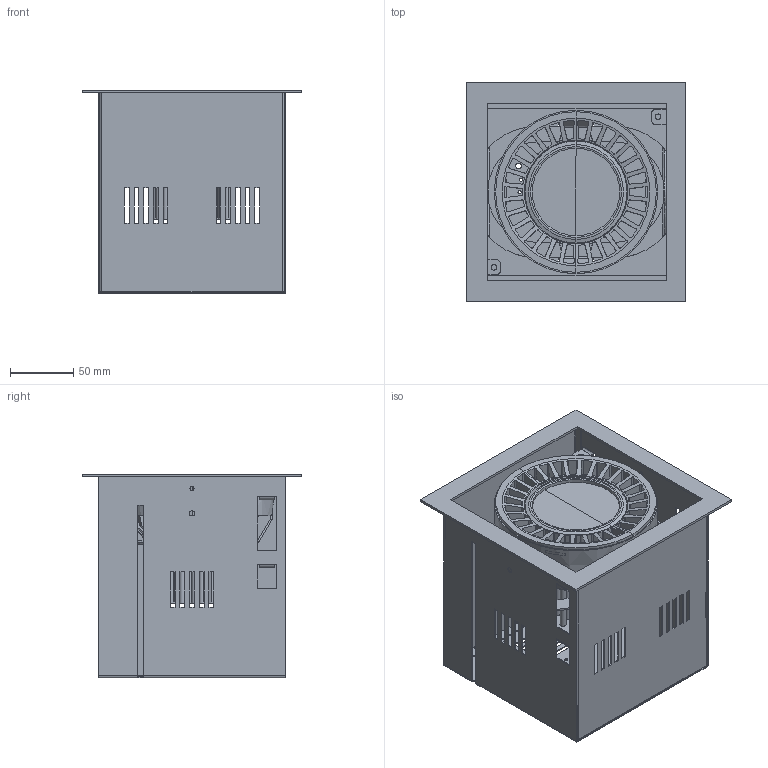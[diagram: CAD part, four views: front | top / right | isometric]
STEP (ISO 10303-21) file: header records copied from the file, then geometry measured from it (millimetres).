
FILE_DESCRIPTION(/* description */ (''),/* implementation_level */ '2;1');
FILE_NAME(/* name */ 'C:\Users\FrancoSartori\Documents\FARO\01_En Proceso\000_PRO\00_1 COLIN\03_Publicación\034008502.stp',/* time_stamp */ '2021-08-20T08:12:31+02:00',/* author */ ('FrancoSartori'),/* organization */ (''),/* preprocessor_version */ 'ST-DEVELOPER v18.1',/* originating_system */ 'AutoCAD Mechanical',/* authorisation */ '');
FILE_SCHEMA (('AUTOMOTIVE_DESIGN { 1 0 10303 214 3 1 1 }'));
Length unit declared in the file: millimetre
Products named in the file (2): Product; COLIN-1_ - Lamp-458691-View 1
Assembly tree (1 placements, depth 2):
  Product
    COLIN-1_ - Lamp-458691-View 1
Bounding box: 173 x 173 x 160.75 mm (x, y, z)
Volume: 433978.7 mm3; surface area: 463085 mm2
Topology: 21 solids, 21 shells, 1197 faces, 3290 edges, 2154 vertices
Faces by surface type: plane 587, cylinder 438, cone 156, bspline 10, torus 6
Entity records: 40174 total; most frequent: CARTESIAN_POINT 10122, ORIENTED_EDGE 6580, DIRECTION 5902, EDGE_CURVE 3290, VERTEX_POINT 2154, AXIS2_PLACEMENT_3D 2076, LINE 1750, VECTOR 1750
